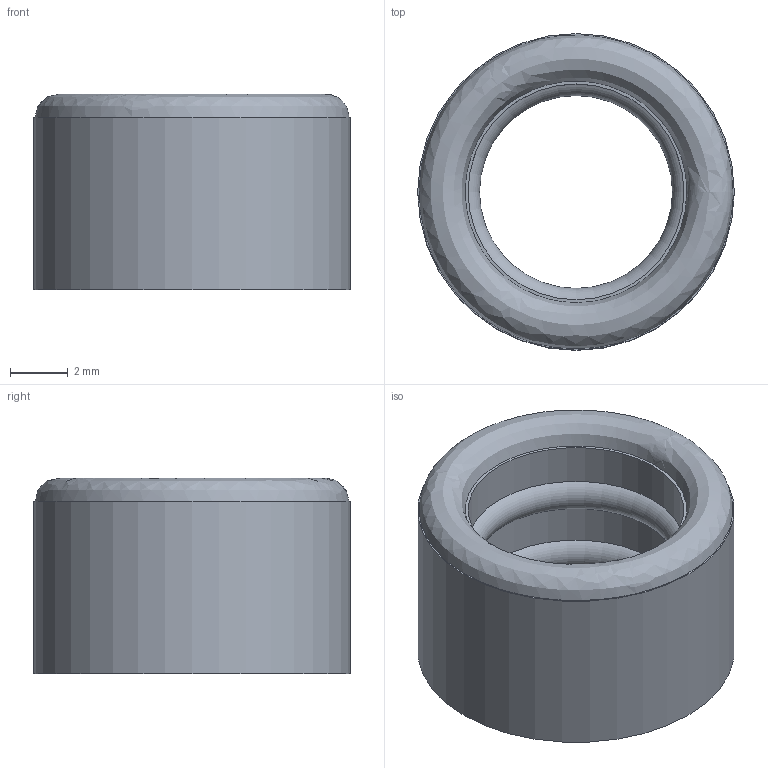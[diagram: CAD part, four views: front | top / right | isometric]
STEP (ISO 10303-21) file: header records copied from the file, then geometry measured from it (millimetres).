
FILE_DESCRIPTION(('FreeCAD Model'),'2;1');
FILE_NAME('Open CASCADE Shape Model','2026-09-29T21:45:25',('Author'),( ''),'Open CASCADE STEP processor 7.8','FreeCAD','Unknown');
FILE_SCHEMA(('AUTOMOTIVE_DESIGN { 1 0 10303 214 1 1 1 1 }'));
Length unit declared in the file: millimetre
Products named in the file (1): cable_seal_b6p7_L6p8
Bounding box: 11 x 11 x 6.8 mm (x, y, z)
Volume: 349.9 mm3; surface area: 489.2 mm2
Topology: 1 solids, 1 shells, 10 faces, 17 edges, 10 vertices
Faces by surface type: cylinder 4, plane 3, torus 2, bspline 1
Full cylindrical faces by diameter (mm): 7.5 x3, 11 x1
Entity records: 434 total; most frequent: CARTESIAN_POINT 231, DIRECTION 44, ORIENTED_EDGE 34, AXIS2_PLACEMENT_3D 20, EDGE_CURVE 17, FACE_BOUND 13, EDGE_LOOP 13, ADVANCED_FACE 10
